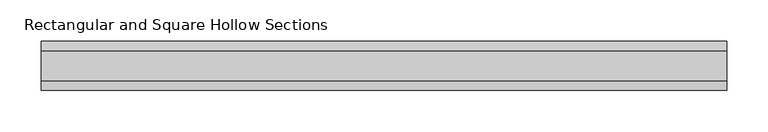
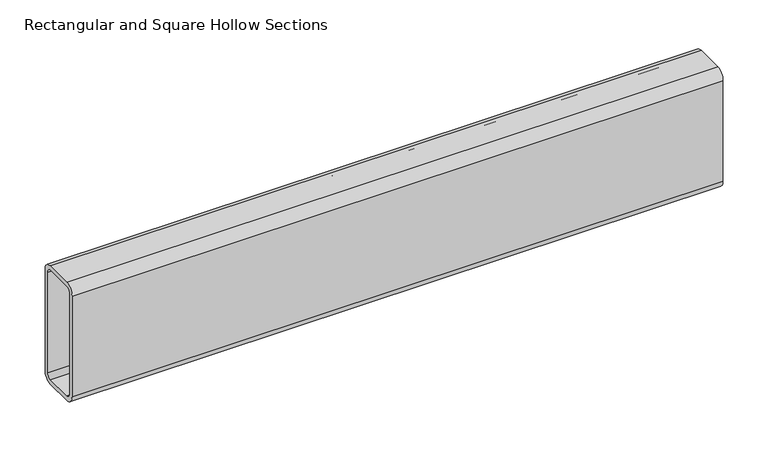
"""IFC4 building model written with IfcOpenShell, lengths in millimetres: beam geometry, Rectangular and Square Hollow Sections : TREC160x60x6."""

from ifc_helpers import new_model, si_unit, point, frame, frame_2d, origin, place, context, project, spatial, polyline, circle_curve, trimmed, segment, composite_curve, outline, extrude, source, transform, mapped, element, save


def rectangular_and_square_hollow_sections_ca13e8e6(model_context):
    return source(origin(), model_context, "Body", "SweptSolid", [
        extrude(outline(composite_curve([segment(polyline([(30.0, 68.0), (30.0, -68.0)]), True, "CONTINUOUS"), segment(trimmed(circle_curve(frame_2d((18.0, -68.0)), 12.0), [point((30.0, -68.0))], [point((18.0, -80.0))], False, "CARTESIAN"), True, "CONTINUOUS"), segment(polyline([(18.0, -80.0), (-18.0, -80.0)]), True, "CONTINUOUS"), segment(trimmed(circle_curve(frame_2d((-18.0, -68.0)), 12.0), [point((-18.0, -80.0))], [point((-30.0, -68.0))], False, "CARTESIAN"), True, "CONTINUOUS"), segment(polyline([(-30.0, -68.0), (-30.0, 68.0)]), True, "CONTINUOUS"), segment(trimmed(circle_curve(frame_2d((-18.0, 68.0)), 12.0), [point((-30.0, 68.0))], [point((-18.0, 80.0))], False, "CARTESIAN"), True, "CONTINUOUS"), segment(polyline([(-18.0, 80.0), (18.0, 80.0)]), True, "CONTINUOUS"), segment(trimmed(circle_curve(frame_2d((18.0, 68.0)), 12.0), [point((18.0, 80.0))], [point((30.0, 68.0))], False, "CARTESIAN"), True, "CONTINUOUS")], self_intersect=False), holes=[composite_curve([segment(trimmed(circle_curve(frame_2d((-18.0, 68.0)), 6.0), [point((-18.0, 74.0))], [point((-24.0, 68.0))], True, "CARTESIAN"), True, "CONTINUOUS"), segment(polyline([(-24.0, 68.0), (-24.0, -68.0)]), True, "CONTINUOUS"), segment(trimmed(circle_curve(frame_2d((-18.0, -68.0)), 6.0), [point((-24.0, -68.0))], [point((-18.0, -74.0))], True, "CARTESIAN"), True, "CONTINUOUS"), segment(polyline([(-18.0, -74.0), (18.0, -74.0)]), True, "CONTINUOUS"), segment(trimmed(circle_curve(frame_2d((18.0, -68.0)), 6.0), [point((18.0, -74.0))], [point((24.0, -68.0))], True, "CARTESIAN"), True, "CONTINUOUS"), segment(polyline([(24.0, -68.0), (24.0, 68.0)]), True, "CONTINUOUS"), segment(trimmed(circle_curve(frame_2d((18.0, 68.0)), 6.0), [point((24.0, 68.0))], [point((18.0, 74.0))], True, "CARTESIAN"), True, "CONTINUOUS"), segment(polyline([(18.0, 74.0), (-18.0, 74.0)]), True, "CONTINUOUS")], self_intersect=False)]), frame((-403.0, 0.0, 0.0), z_axis=(1.0, 0.0, 0.0), x_axis=(0.0, 1.0, 0.0)), (0.0, 0.0, 1.0), 834.0),
    ])


if __name__ == "__main__":
    model = new_model("IFC4")
    model_context = context("Model", 3, world=origin())
    ifc_project = project(units=[si_unit("LENGTHUNIT", "METRE", prefix="MILLI")], contexts=[model_context])
    site = spatial("IfcSite", under=ifc_project)
    building = spatial("IfcBuilding", under=site)
    placement = place(None, origin())
    rectangular_and_square_hollow_sections_shape = rectangular_and_square_hollow_sections_ca13e8e6(model_context)
    element("IfcBeam", 1, ObjectType="Rectangular and Square Hollow Sections : TREC160x60x6", at=placement, inside=building, context=model_context, shape_type="MappedRepresentation", body=[
        mapped(rectangular_and_square_hollow_sections_shape, transform((0.0, 0.0, 0.0), x_axis=(1.0, 0.0, 0.0), y_axis=(0.0, 1.0, 0.0), z_axis=(0.0, 0.0, 1.0))),
    ])
    save(model, "model.ifc")
